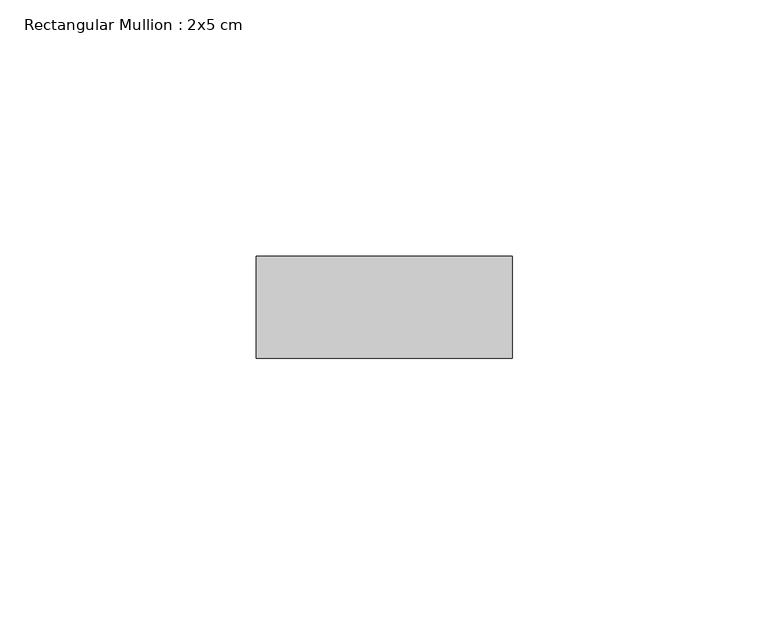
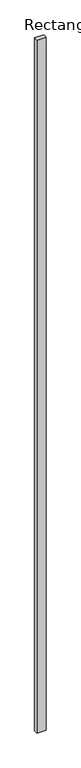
"""IFC4 building model written with IfcOpenShell, lengths in millimetres: member geometry, Rectangular Mullion : 2x5 cm."""

from ifc_helpers import new_model, si_unit, frame, origin, place, context, project, spatial, polyline, outline, extrude, source, transform, mapped, element, save


def rectangular_mullion_2x5_cm_6b3c3805(model_context):
    return source(origin(), model_context, "Body", "SweptSolid", [
        extrude(outline(polyline([(50.0, 20.0), (50.0, 0.0), (0.0, 0.0), (0.0, 20.0), (50.0, 20.0)])), frame((0.0, 0.0, -3973.4908825), z_axis=(0.0, 0.0, 1.0), x_axis=(1.0, 0.0, 0.0)), (0.0, 0.0, 1.0), 3973.4908825),
    ])


if __name__ == "__main__":
    model = new_model("IFC4")
    model_context = context("Model", 3, world=origin())
    ifc_project = project(units=[si_unit("LENGTHUNIT", "METRE", prefix="MILLI")], contexts=[model_context])
    site = spatial("IfcSite", under=ifc_project)
    building = spatial("IfcBuilding", under=site)
    placement = place(None, origin())
    rectangular_mullion_2x5_cm_shape = rectangular_mullion_2x5_cm_6b3c3805(model_context)
    element("IfcMember", 1, ObjectType="Rectangular Mullion : 2x5 cm", at=placement, inside=building, context=model_context, shape_type="MappedRepresentation", body=[
        mapped(rectangular_mullion_2x5_cm_shape, transform((0.0, 0.0, 0.0), x_axis=(1.0, 0.0, 0.0), y_axis=(0.0, 1.0, 0.0), z_axis=(0.0, 0.0, 1.0))),
    ])
    save(model, "model.ifc")
